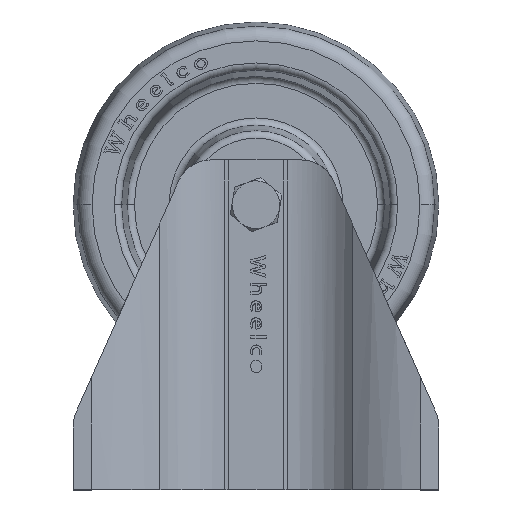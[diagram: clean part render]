
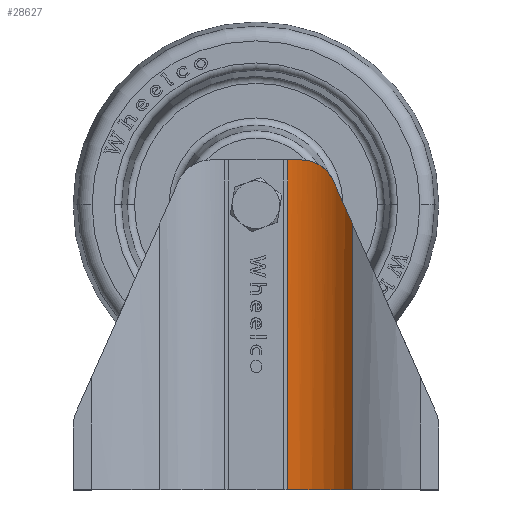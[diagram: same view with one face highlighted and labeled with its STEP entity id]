
A CAD part, top view. The second image highlights one B-rep face of the part: STEP entity #28627.
In plain terms, the highlighted cylindrical face has radius 22.092 mm (diameter 44.183 mm), a partial arc.
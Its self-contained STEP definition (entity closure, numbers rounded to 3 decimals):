
#376 = CARTESIAN_POINT ( 'NONE',  ( 28.093, 82.787, -71.913 ) ) ;
#851 = CARTESIAN_POINT ( 'NONE',  ( 34.554, 89.744, -68.551 ) ) ;
#1064 = CARTESIAN_POINT ( 'NONE',  ( 30.79, 87.342, -70.171 ) ) ;
#1705 = EDGE_CURVE ( 'NONE', #3282, #13958, #34995, .T. ) ;
#2820 = AXIS2_PLACEMENT_3D ( 'NONE', #6300, #26325, #29568 ) ;
#3166 = LINE ( 'NONE', #13183, #36828 ) ;
#3282 = VERTEX_POINT ( 'NONE', #31902 ) ;
#4291 = CARTESIAN_POINT ( 'NONE',  ( 30.099, 86.551, -70.568 ) ) ;
#4714 = CARTESIAN_POINT ( 'NONE',  ( 36.395, 90.187, -68.034 ) ) ;
#4906 = DIRECTION ( 'NONE',  ( 0., 1., 0. ) ) ;
#5516 = CARTESIAN_POINT ( 'NONE',  ( 41.379, 90.24, -67.472 ) ) ;
#5542 = CARTESIAN_POINT ( 'NONE',  ( 24.991, 75.788, -74.607 ) ) ;
#5629 = ORIENTED_EDGE ( 'NONE', *, *, #29160, .T. ) ;
#6300 = CARTESIAN_POINT ( 'NONE',  ( 41.379, -102.648, -89.563 ) ) ;
#6735 = CYLINDRICAL_SURFACE ( 'NONE', #2820, 22.092 ) ;
#6879 = AXIS2_PLACEMENT_3D ( 'NONE', #26266, #4906, #24286 ) ;
#7133 = CARTESIAN_POINT ( 'NONE',  ( 31.166, 87.707, -69.969 ) ) ;
#7989 = CARTESIAN_POINT ( 'NONE',  ( 35.596, 90.038, -68.24 ) ) ;
#8245 = VERTEX_POINT ( 'NONE', #22387 ) ;
#8892 = VECTOR ( 'NONE', #28066, 1000. ) ;
#9999 = ORIENTED_EDGE ( 'NONE', *, *, #24296, .F. ) ;
#10395 = CARTESIAN_POINT ( 'NONE',  ( 29.623, 85.914, -70.859 ) ) ;
#11266 = CARTESIAN_POINT ( 'NONE',  ( 32.416, 88.678, -69.37 ) ) ;
#11479 = DIRECTION ( 'NONE',  ( 0., 1., 0. ) ) ;
#11817 = EDGE_CURVE ( 'NONE', #42268, #28952, #37044, .T. ) ;
#12296 = CARTESIAN_POINT ( 'NONE',  ( 28.093, 82.787, -71.913 ) ) ;
#13183 = CARTESIAN_POINT ( 'NONE',  ( 23.75, -102.648, -76.25 ) ) ;
#13958 = VERTEX_POINT ( 'NONE', #5516 ) ;
#17157 = CARTESIAN_POINT ( 'NONE',  ( 35.333, 89.976, -68.314 ) ) ;
#17276 = CIRCLE ( 'NONE', #39428, 22.092 ) ;
#17370 = CARTESIAN_POINT ( 'NONE',  ( 28.891, 84.804, -71.327 ) ) ;
#17590 = CARTESIAN_POINT ( 'NONE',  ( 28.093, 82.787, -71.913 ) ) ;
#19058 = DIRECTION ( 'NONE',  ( 0., 1., 0. ) ) ;
#20618 = CARTESIAN_POINT ( 'NONE',  ( 37.5, 90.24, -67.815 ) ) ;
#20822 = CARTESIAN_POINT ( 'NONE',  ( 23.75, 72.989, -76.25 ) ) ;
#21270 = CARTESIAN_POINT ( 'NONE',  ( 29.777, 86.132, -70.762 ) ) ;
#22204 = EDGE_CURVE ( 'NONE', #8245, #13958, #30472, .T. ) ;
#22387 = CARTESIAN_POINT ( 'NONE',  ( 37.5, 90.24, -67.815 ) ) ;
#22521 = ORIENTED_EDGE ( 'NONE', *, *, #11817, .F. ) ;
#24064 = EDGE_CURVE ( 'NONE', #8245, #42268, #27989, .T. ) ;
#24286 = DIRECTION ( 'NONE',  ( 0., 0., 1. ) ) ;
#24296 = EDGE_CURVE ( 'NONE', #42280, #3282, #17276, .T. ) ;
#24306 = CARTESIAN_POINT ( 'NONE',  ( 36.941, 90.24, -67.915 ) ) ;
#24379 = CARTESIAN_POINT ( 'NONE',  ( 41.379, -102.648, -67.472 ) ) ;
#25557 = CARTESIAN_POINT ( 'NONE',  ( 26.448, 79.076, -73.152 ) ) ;
#26266 = CARTESIAN_POINT ( 'NONE',  ( 41.379, 90.24, -89.563 ) ) ;
#26325 = DIRECTION ( 'NONE',  ( 0., 1., 0. ) ) ;
#26912 = CARTESIAN_POINT ( 'NONE',  ( 32.638, 88.821, -69.273 ) ) ;
#27353 = CARTESIAN_POINT ( 'NONE',  ( 33.798, 89.456, -68.806 ) ) ;
#27562 = CARTESIAN_POINT ( 'NONE',  ( 33.32, 89.224, -68.988 ) ) ;
#27779 = CARTESIAN_POINT ( 'NONE',  ( 28.43, 83.84, -71.66 ) ) ;
#27989 = B_SPLINE_CURVE_WITH_KNOTS ( 'NONE', 3,
 ( #20618, #24306, #4714, #7989, #17157, #40992, #851, #27353, #27562, #26912, #11266, #36885, #34066, #7133, #1064, #40122, #4291, #21270, #10395, #17370, #27779, #17590 ),
 .UNSPECIFIED., .F., .F.,
 ( 4, 2, 2, 2, 2, 2, 2, 2, 2, 2, 4 ),
 ( 0., 0.002, 0.003, 0.003, 0.005, 0.006, 0.007, 0.008, 0.009, 0.01, 0.013 ),
 .UNSPECIFIED. ) ;
#28066 = DIRECTION ( 'NONE',  ( 0., 1., 0. ) ) ;
#28601 = CARTESIAN_POINT ( 'NONE',  ( 23.75, 72.989, -76.25 ) ) ;
#28627 = ADVANCED_FACE ( 'NONE', ( #36296 ), #6735, .F. ) ;
#28952 = VERTEX_POINT ( 'NONE', #20822 ) ;
#29160 = EDGE_CURVE ( 'NONE', #42280, #28952, #3166, .T. ) ;
#29568 = DIRECTION ( 'NONE',  ( 0., 0., 1. ) ) ;
#29916 = CARTESIAN_POINT ( 'NONE',  ( 23.75, 0.13, -76.25 ) ) ;
#30472 = CIRCLE ( 'NONE', #6879, 22.092 ) ;
#31902 = CARTESIAN_POINT ( 'NONE',  ( 41.379, 0.13, -67.472 ) ) ;
#34066 = CARTESIAN_POINT ( 'NONE',  ( 31.773, 88.211, -69.668 ) ) ;
#34710 = DIRECTION ( 'NONE',  ( 0., 0., -1. ) ) ;
#34995 = LINE ( 'NONE', #24379, #8892 ) ;
#35567 = CARTESIAN_POINT ( 'NONE',  ( 41.379, 0.13, -89.563 ) ) ;
#36296 = FACE_OUTER_BOUND ( 'NONE', #39558, .T. ) ;
#36594 = ORIENTED_EDGE ( 'NONE', *, *, #1705, .F. ) ;
#36828 = VECTOR ( 'NONE', #19058, 1000. ) ;
#36885 = CARTESIAN_POINT ( 'NONE',  ( 31.984, 88.373, -69.568 ) ) ;
#37044 =( BOUNDED_CURVE ( )  B_SPLINE_CURVE ( 3, ( #12296, #25557, #5542, #28601 ),
 .UNSPECIFIED., .F., .F. ) 
 B_SPLINE_CURVE_WITH_KNOTS ( ( 4, 4 ),
 ( 0., 1. ),
 .UNSPECIFIED. ) 
 CURVE ( )  GEOMETRIC_REPRESENTATION_ITEM ( )  RATIONAL_B_SPLINE_CURVE ( ( 1., 0.994, 0.994, 1. ) ) 
 REPRESENTATION_ITEM ( '' )  );
#39428 = AXIS2_PLACEMENT_3D ( 'NONE', #35567, #11479, #34710 ) ;
#39558 = EDGE_LOOP ( 'NONE', ( #36594, #9999, #5629, #22521, #41389, #41664 ) ) ;
#40122 = CARTESIAN_POINT ( 'NONE',  ( 30.267, 86.754, -70.469 ) ) ;
#40992 = CARTESIAN_POINT ( 'NONE',  ( 34.812, 89.829, -68.469 ) ) ;
#41389 = ORIENTED_EDGE ( 'NONE', *, *, #24064, .F. ) ;
#41664 = ORIENTED_EDGE ( 'NONE', *, *, #22204, .T. ) ;
#42268 = VERTEX_POINT ( 'NONE', #376 ) ;
#42280 = VERTEX_POINT ( 'NONE', #29916 ) ;
